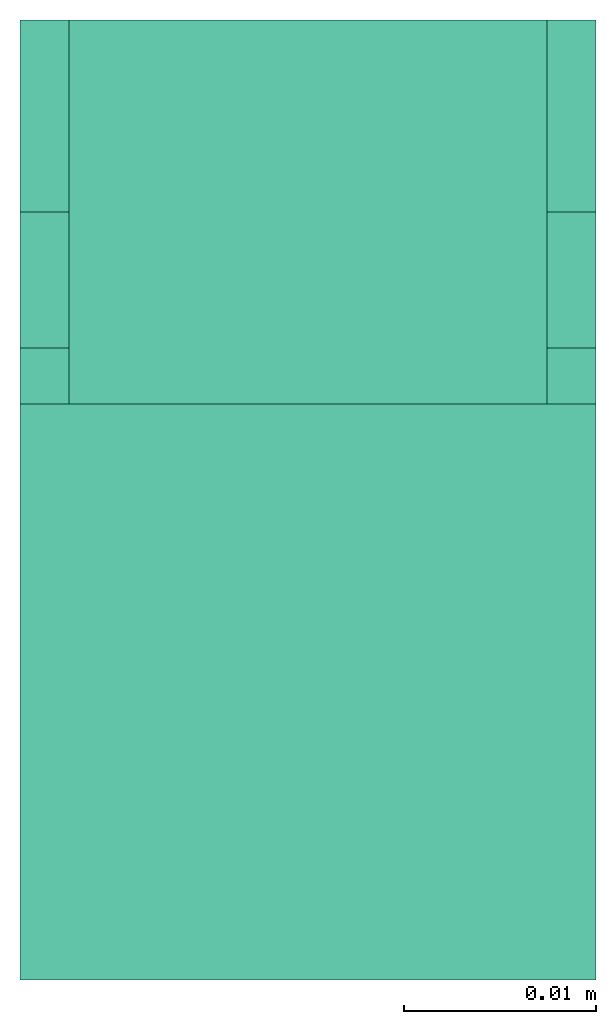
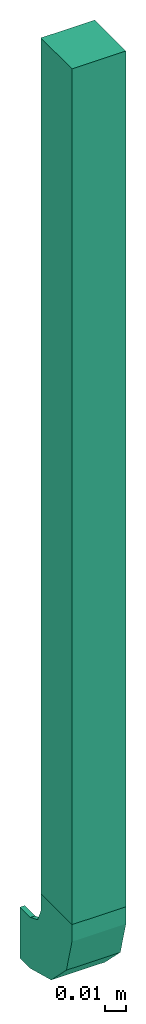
# One storey: 1 flow fitting, 1 flow segment.
"""IFC2X3 building model written with IfcOpenShell, lengths in millimetres."""

from ifc_helpers import new_model, entity, si_unit, converted_unit, derived_unit, direction, frame, origin_with_axes, place, context, subcontext, project, spatial, open_shell, faceted_brep, surface_model, source, transform, mapped, type_object, element, save


model = new_model("IFC2X3")

# Units and contexts
model_context = context("Model", 3, precision=0.01, world=frame((0.0, 4.29681676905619e-09, 0.0)), true_north=direction((4.01073788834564e-13, 1.0)))
plan_context = context("Plan", 3, precision=0.01, world=frame((0.0, 4.29681676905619e-09, 0.0)), true_north=direction((4.01073788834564e-13, 1.0)))
body_context = subcontext(model_context, "Body", "Model", "MODEL_VIEW")
ifc_project = project(units=[converted_unit("PLANEANGLEUNIT", "DEGREE", entity("IfcPositiveLengthMeasure", 0.0174532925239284), si_unit("PLANEANGLEUNIT", "RADIAN"), dimensions=[0, 0, 0, 0, 0, 0, 0]), si_unit("AREAUNIT", "SQUARE_METRE"), si_unit("LENGTHUNIT", "METRE", prefix="MILLI"), si_unit("MASSUNIT", "GRAM", prefix="KILO"), si_unit("POWERUNIT", "WATT"), si_unit("PRESSUREUNIT", "PASCAL"), si_unit("FORCEUNIT", "NEWTON", prefix="KILO"), si_unit("ELECTRICVOLTAGEUNIT", "VOLT"), si_unit("ELECTRICCURRENTUNIT", "AMPERE"), si_unit("THERMODYNAMICTEMPERATUREUNIT", "DEGREE_CELSIUS"), si_unit("TIMEUNIT", "SECOND"), si_unit("VOLUMEUNIT", "CUBIC_METRE"), derived_unit("LINEARVELOCITYUNIT", [(si_unit("LENGTHUNIT", "METRE"), 1), (si_unit("TIMEUNIT", "SECOND"), -1)]), derived_unit("VOLUMETRICFLOWRATEUNIT", [(si_unit("VOLUMEUNIT", "CUBIC_METRE"), 1), (si_unit("TIMEUNIT", "SECOND"), -1)]), derived_unit("THERMALTRANSMITTANCEUNIT", [(si_unit("POWERUNIT", "WATT"), 1), (si_unit("THERMODYNAMICTEMPERATUREUNIT", "KELVIN"), -1), (si_unit("AREAUNIT", "SQUARE_METRE"), -1)]), derived_unit("SOUNDPRESSUREUNIT", [(si_unit("PRESSUREUNIT", "PASCAL"), 1)])], contexts=[model_context, plan_context])

# Site, building, storey
site_placement = place(None, frame((0.0, -4.29681676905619e-09, 0.0), z_axis=(0.0, 0.0, 1.0), x_axis=(1.0, 0.0, 0.0)))
site = spatial("IfcSite", under=ifc_project, at=site_placement, Name="ENGM", CompositionType="ELEMENT")
building_placement = place(site_placement, frame((0.0, 4.29681676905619e-09, 0.0), z_axis=(0.0, 0.0, 1.0), x_axis=(1.0, 0.0, 0.0)))
building = spatial("IfcBuilding", under=site, at=building_placement, Name="TI", CompositionType="ELEMENT")
storey_placement = place(building_placement, frame((0.0, 0.0, 216900.0), z_axis=(0.0, 0.0, 1.0), x_axis=(1.0, 0.0, 0.0)))
storey = spatial("IfcBuildingStorey", under=building, at=storey_placement, Name="Nivå G + 1,2 m", CompositionType="ELEMENT", Elevation=216900.0)

# Flow fitting
cable_carrier_fitting_type = type_object("IfcCableCarrierFittingType", Name="Kabelrenne, bend vertikal (Inside)", PredefinedType="BEND")
shared_shape = source(origin_with_axes(), body_context, "Body", "SurfaceModel", [
    surface_model("IfcShellBasedSurfaceModel", [(-35.0, -12.46, -12.46), (-35.0, 15.0, -12.46), (-35.0, 15.0, -15.0), (-35.0, -12.46, 12.46), (-35.0, -15.0, -15.0), (-35.0, 15.0, 15.0), (-35.0, 15.0, 12.46), (-35.0, -15.0, 15.0), (-15.0, 35.0, -15.0), (-15.0, 35.0, -12.46), (12.46, 35.0, -12.46), (15.0, 35.0, -15.0), (12.46, 35.0, 12.46), (-15.0, 35.0, 12.46), (-15.0, 35.0, 15.0), (15.0, 35.0, 15.0), (-25.0, -15.0, 15.0), (-25.0, 15.0, 15.0), (-5.0, -9.64102, 15.0), (-17.92893, 17.92893, 15.0), (9.64102, 5.0, 15.0), (-15.0, 25.0, 15.0), (15.0, 25.0, 15.0), (-25.0, -15.0, -15.0), (-25.0, 15.0, -15.0), (-5.0, -9.64102, -15.0), (-17.92893, 17.92893, -15.0), (15.0, 25.0, -15.0), (-15.0, 25.0, -15.0), (9.64102, 5.0, -15.0), (-25.0, 15.0, -12.46), (-25.0, -12.46, -12.46), (-6.27, -7.44131, -12.46), (-17.92893, 17.92893, -12.46), (7.44131, 6.27, -12.46), (-15.0, 25.0, -12.46), (12.46, 25.0, -12.46), (-25.0, -12.46, 12.46), (-25.0, 15.0, 12.46), (-6.27, -7.44131, 12.46), (-17.92893, 17.92893, 12.46), (12.46, 25.0, 12.46), (-15.0, 25.0, 12.46), (7.44131, 6.27, 12.46), (-15.0, -12.32051, 15.0), (2.32051, -2.32051, -15.0), (2.32051, -2.32051, 15.0), (-15.0, -12.32051, -15.0), (11.71264, 12.7314, 15.0), (12.32051, 15.0, -15.0), (-15.635, -9.95066, 12.46), (0.58566, -0.58566, 12.46), (0.58566, -0.58566, -12.46), (-15.635, -9.95066, -12.46), (9.95066, 15.635, 12.46), (10.6667, 18.30732, -12.46)], [open_shell([[[0, 1, 2]], [[3, 0, 4]], [[2, 4, 0]], [[3, 5, 6]], [[4, 7, 3]], [[5, 3, 7]], [[8, 9, 10]], [[11, 10, 12]], [[10, 11, 8]], [[13, 14, 12]], [[12, 15, 11]], [[15, 12, 14]], [[7, 16, 5]], [[17, 5, 16]], [[18, 19, 17]], [[17, 16, 18]], [[19, 20, 21]], [[20, 19, 18]], [[21, 20, 22]], [[14, 22, 15]], [[22, 14, 21]], [[7, 4, 23]], [[23, 16, 7]], [[2, 23, 4]], [[23, 2, 24]], [[25, 23, 24]], [[24, 26, 25]], [[8, 11, 27]], [[8, 27, 28]], [[29, 25, 26]], [[29, 28, 27]], [[29, 26, 28]], [[2, 1, 24]], [[30, 24, 1]], [[0, 31, 1]], [[30, 1, 31]], [[32, 33, 30]], [[30, 31, 32]], [[33, 34, 35]], [[34, 33, 32]], [[35, 34, 36]], [[9, 36, 10]], [[36, 9, 35]], [[0, 3, 37]], [[37, 31, 0]], [[6, 37, 3]], [[37, 6, 38]], [[39, 37, 38]], [[38, 40, 39]], [[13, 12, 41]], [[13, 41, 42]], [[43, 39, 40]], [[43, 42, 41]], [[43, 40, 42]], [[6, 5, 38]], [[17, 38, 5]], [[23, 44, 16]], [[18, 45, 46]], [[29, 20, 46]], [[47, 25, 18]], [[46, 45, 29]], [[22, 48, 49]], [[47, 44, 23]], [[47, 18, 44]], [[22, 49, 27]], [[20, 29, 48]], [[25, 45, 18]], [[48, 29, 49]], [[30, 26, 24]], [[33, 26, 30]], [[35, 28, 33]], [[26, 33, 28]], [[37, 50, 31]], [[32, 39, 51]], [[51, 43, 52]], [[39, 32, 53]], [[34, 52, 43]], [[43, 54, 34]], [[31, 50, 53]], [[50, 39, 53]], [[54, 41, 55]], [[41, 36, 55]], [[52, 32, 51]], [[55, 34, 54]], [[19, 38, 17]], [[40, 38, 19]], [[21, 42, 40]], [[19, 21, 40]], [[22, 27, 11]], [[11, 15, 22]], [[28, 35, 9]], [[9, 8, 28]], [[36, 41, 12]], [[12, 10, 36]], [[42, 21, 14]], [[14, 13, 42]]])]),
])
flow_fitting_placement = place(storey_placement, frame((601313.92634, 699428.22999, -3237.72078), z_axis=(1.0, 0.0, 0.0), x_axis=(0.0, 0.0, -1.0)))
element("IfcFlowFitting", 1, at=flow_fitting_placement, inside=storey, type_object=cable_carrier_fitting_type, Name="Kabelrenne, bend vertikal (Inside)", context=body_context, shape_type="MappedRepresentation", body=[
    mapped(shared_shape, transform((0.0, 0.0, 0.0), scale=1.0)),
])

# Flow segment
cable_carrier_segment_type = type_object("IfcCableCarrierSegmentType", Name="Logiske føringsveier", PredefinedType="CABLELADDERSEGMENT")
flow_segment_placement = place(storey_placement, frame((601313.92634, 699428.22999, 2467.27922), z_axis=(0.0, 1.0, 0.0), x_axis=(0.0, 0.0, -1.0)))
element("IfcFlowSegment", 2, at=flow_segment_placement, inside=storey, type_object=cable_carrier_segment_type, Name="Logiske føringsveier", context=body_context, shape_type="Brep", body=[
    faceted_brep([(5669.99984, 15.0, -15.0), (5669.99984, -15.0, -15.0), (5669.99984, -15.0, 15.0), (5669.99984, 15.0, 15.0), (5167.27922, -15.0, -15.0), (5167.27922, -15.0, -12.3401024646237), (5167.27922, -15.0, 15.0), (5167.27922, -12.3401024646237, 15.0), (5167.27922, 15.0, 15.0), (5167.27922, 15.0, 12.3401024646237), (5167.27922, 15.0, -15.0), (5167.27922, 12.3401024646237, -15.0)], [[[0, 1, 2]], [[2, 3, 0]], [[4, 5, 1]], [[5, 6, 2, 1]], [[6, 7, 2]], [[7, 8, 3, 2]], [[8, 9, 3]], [[9, 10, 0, 3]], [[10, 11, 0]], [[11, 4, 1, 0]], [[11, 10, 9, 8, 7, 6, 5, 4]]], orient=[[False], [False], [False], [False], [False], [False], [False], [False], [False], [False], [False]]),
])

save(model, "model.ifc")
